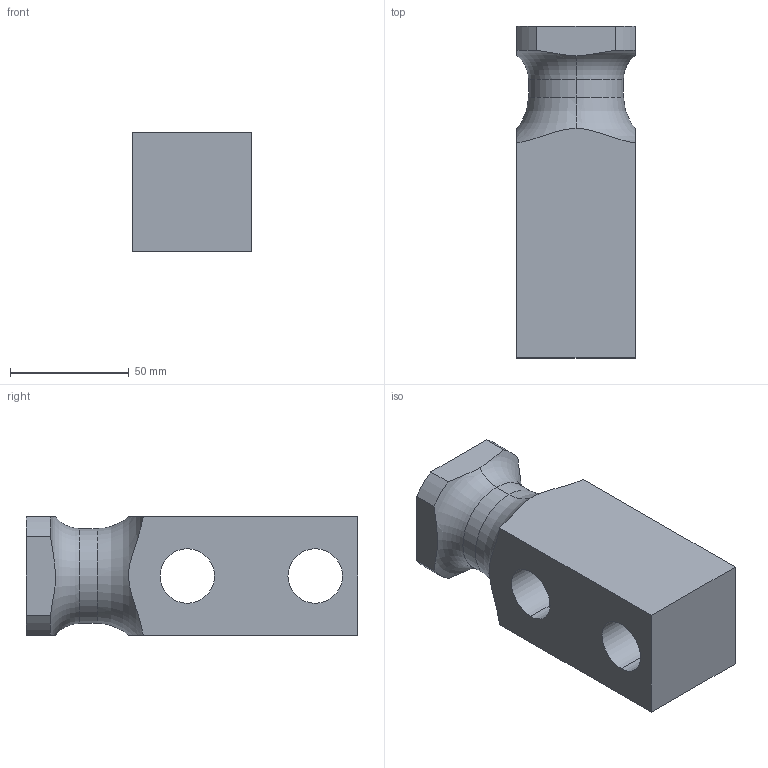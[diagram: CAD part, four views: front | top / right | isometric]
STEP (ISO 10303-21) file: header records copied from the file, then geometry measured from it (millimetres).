
FILE_DESCRIPTION(('CATIA V5 STEP Exchange'),'2;1');
FILE_NAME('C:\Users\Raffaele\Desktop\3D X SITO CF\PERNI -STAFFE SOLLEVAMENTO\395V\GSB_OILLESS_C10104050140\STEP-2.03\395V-04-050-140.stp','2019-07-03T12:33:28+00:00',('none'),('none'),'CATIA Version 5 Release 20 GA (IN-10)','CATIA V5 STEP AP203','none');
FILE_SCHEMA(('CONFIG_CONTROL_DESIGN'));
Length unit declared in the file: millimetre
Products named in the file (1): 395V-04-050-140
Bounding box: 50 x 140 x 50 mm (x, y, z)
Volume: 252754.3 mm3; surface area: 38246.4 mm2
Topology: 1 solids, 1 shells, 30 faces, 98 edges, 72 vertices
Faces by surface type: cylinder 14, plane 12, torus 4
Entity records: 1467 total; most frequent: CARTESIAN_POINT 584, ORIENTED_EDGE 196, DIRECTION 134, EDGE_CURVE 98, AXIS2_PLACEMENT_3D 75, VERTEX_POINT 72, CIRCLE 44, EDGE_LOOP 36
